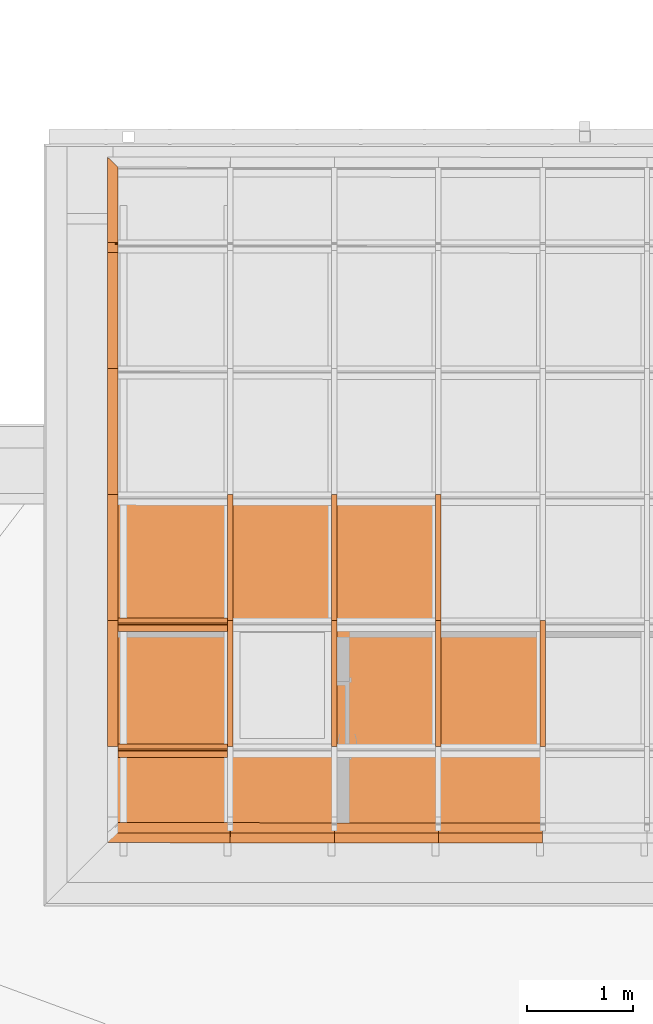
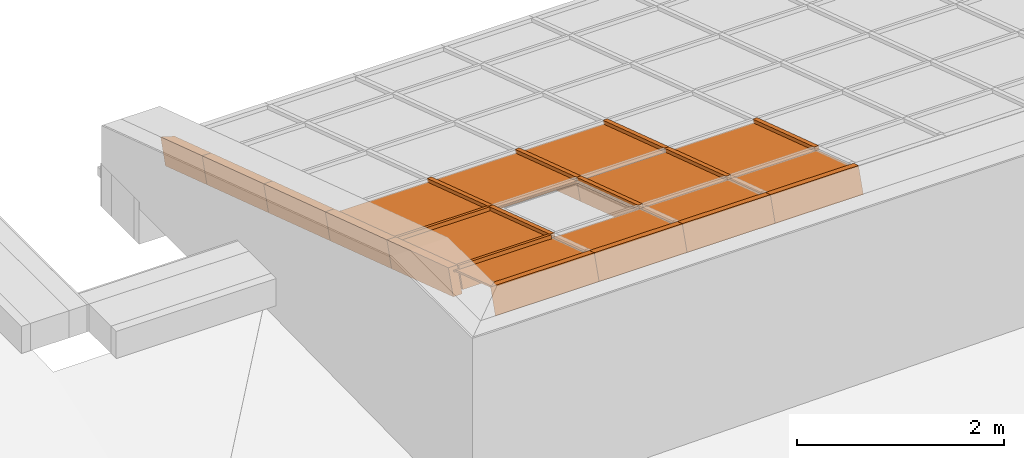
# One storey, part 30 of 47: 28 proxies, 1 element without a shape of its own.
"""IFC2X3 building model written with IfcOpenShell, lengths in millimetres."""

import ifcopenshell
import ifcopenshell.guid

model = None  # the IFC model being written
_history = None  # IfcOwnerHistory: only IFC2X3 demands one
_inside = {}  # id of a spatial element -> (the spatial element, [elements in it])
_under = {}  # id of a project, library or spatial element -> (it, [spatial elements below it])
_declared = {}  # id of a project -> (the project, [libraries it declares])
_typed = {}  # id of a type object -> (the type object, [elements of that type])
_made_of = {}  # id of a material, layer set ... -> (it, [elements and type objects made of it])


def new_model(schema):
    """Start an empty IFC model of exactly this schema.

    Asked for "IFC4X3", IfcOpenShell would pick the latest addendum, in which some entities
    have other attributes; the version numbers below select the first issue.
    IFC2X3 requires an IfcOwnerHistory on every rooted entity: one is made here for all.
    """
    global model, _history
    if schema == "IFC4X3":
        model = ifcopenshell.file(schema_version=(4, 3, 0, 0))
    else:
        model = ifcopenshell.file(schema=schema)
    _inside.clear()
    _under.clear()
    _declared.clear()
    _typed.clear()
    _made_of.clear()
    _history = None
    if model.schema == "IFC2X3":
        org = make("IfcOrganization", Name="unknown")
        user = make(
            "IfcPersonAndOrganization",
            ThePerson=make("IfcPerson", FamilyName="unknown"),
            TheOrganization=org,
        )
        app = make(
            "IfcApplication",
            ApplicationDeveloper=org,
            Version="unknown",
            ApplicationFullName="unknown",
            ApplicationIdentifier="unknown",
        )
        _history = make(
            "IfcOwnerHistory",
            OwningUser=user,
            OwningApplication=app,
            ChangeAction="ADDED",
            CreationDate=0,
        )
    return model


def make(cls, **values):
    """One entity of the class cls with the attributes given. An attribute that is None is left unset."""
    return model.create_entity(
        cls, **{name: value for name, value in values.items() if value is not None}
    )


def entity(cls, *values):
    """Any entity or typed value of the class cls, its attributes in the order of the schema. None: left unset."""
    e = model.create_entity(cls)
    for i, value in enumerate(values):
        if value is not None:
            e[i] = value
    return e


def rooted(cls, **values):
    """An entity with a GlobalId (a new one), such as an element, a storey or a relation."""
    return make(cls, GlobalId=ifcopenshell.guid.new(), OwnerHistory=_history, **values)


def si_unit(unit_type, name, prefix=None):
    """IfcSIUnit, for example si_unit("LENGTHUNIT", "METRE", prefix="MILLI")."""
    return make("IfcSIUnit", UnitType=unit_type, Prefix=prefix, Name=name)


def converted_unit(unit_type, name, factor, base, dimensions=None, offset=None):
    """IfcConversionBasedUnit, such as the inch: factor (a typed value) times the base unit."""
    return make(
        "IfcConversionBasedUnit"
        if offset is None
        else "IfcConversionBasedUnitWithOffset",
        ConversionOffset=offset,
        Dimensions=None
        if dimensions is None
        else entity("IfcDimensionalExponents", *dimensions),
        UnitType=unit_type,
        Name=name,
        ConversionFactor=make(
            "IfcMeasureWithUnit", ValueComponent=factor, UnitComponent=base
        ),
    )


def derived_unit(unit_type, elements):
    """IfcDerivedUnit: a product of units, each with its exponent."""
    return make(
        "IfcDerivedUnit",
        Elements=[
            make("IfcDerivedUnitElement", Unit=unit, Exponent=power)
            for unit, power in elements
        ],
        UnitType=unit_type,
    )


def money_unit(currency):
    """IfcMonetaryUnit."""
    return make("IfcMonetaryUnit", Currency=currency)


def assignment(units):
    """IfcUnitAssignment: the units of a project."""
    return None if units is None else make("IfcUnitAssignment", Units=units)


def point(xyz):
    """IfcCartesianPoint."""
    return None if xyz is None else make("IfcCartesianPoint", Coordinates=xyz)


def direction(xyz):
    """IfcDirection."""
    return None if xyz is None else make("IfcDirection", DirectionRatios=xyz)


def frame(location, z_axis=None, x_axis=None):
    """IfcAxis2Placement3D, a coordinate frame: its origin and axes. An axis left out is left unset."""
    return make(
        "IfcAxis2Placement3D",
        Location=point(location),
        Axis=direction(z_axis),
        RefDirection=direction(x_axis),
    )


def origin_with_axes():
    """The frame at (0, 0, 0) with the z axis (0, 0, 1) and the x axis (1, 0, 0) written out."""
    return frame((0.0, 0.0, 0.0), z_axis=(0.0, 0.0, 1.0), x_axis=(1.0, 0.0, 0.0))


def place(relative_to, where):
    """IfcLocalPlacement: puts the frame where relative to a parent placement (None: the world)."""
    return make(
        "IfcLocalPlacement", PlacementRelTo=relative_to, RelativePlacement=where
    )


def context(
    kind, dimensions, precision=None, world=None, true_north=None, identifier=None
):
    """IfcGeometricRepresentationContext, for example the 3D "Model" context."""
    return make(
        "IfcGeometricRepresentationContext",
        ContextIdentifier=identifier,
        ContextType=kind,
        CoordinateSpaceDimension=dimensions,
        Precision=precision,
        WorldCoordinateSystem=world,
        TrueNorth=true_north,
    )


def subcontext(parent, identifier, kind, view, scale=None):
    """IfcGeometricRepresentationSubContext, for example "Body" below "Model"."""
    return make(
        "IfcGeometricRepresentationSubContext",
        ContextIdentifier=identifier,
        ContextType=kind,
        ParentContext=parent,
        TargetScale=scale,
        TargetView=view,
    )


def project(units=None, contexts=None):
    """IfcProject with its units and contexts."""
    return rooted(
        "IfcProject",
        Name="project",
        RepresentationContexts=contexts,
        UnitsInContext=assignment(units),
    )


def spatial(cls, under=None, at=None, **own):
    """A site, building, storey or space (cls), placed at a placement, below another one or the project."""
    s = rooted(cls, ObjectPlacement=at, **own)
    if under is not None:
        _under.setdefault(under.id(), (under, []))[1].append(s)
    return s


def polyline(points):
    """IfcPolyline through the points."""
    return make("IfcPolyline", Points=[point(p) for p in points])


def outline(outer, holes=None, kind="AREA"):
    """IfcArbitraryClosedProfileDef: a profile drawn as a closed curve; with holes, ...WithVoids."""
    if holes is None:
        return make("IfcArbitraryClosedProfileDef", ProfileType=kind, OuterCurve=outer)
    return make(
        "IfcArbitraryProfileDefWithVoids",
        ProfileType=kind,
        OuterCurve=outer,
        InnerCurves=holes,
    )


def extrude(swept, where, along, depth):
    """IfcExtrudedAreaSolid: the profile swept, set in the frame where, extruded along a direction by depth."""
    return make(
        "IfcExtrudedAreaSolid",
        SweptArea=swept,
        Position=where,
        ExtrudedDirection=direction(along),
        Depth=depth,
    )


def clip(a, b, op="DIFFERENCE"):
    """IfcBooleanClippingResult: the solid a cut by the half space b."""
    return make(
        "IfcBooleanClippingResult", Operator=op, FirstOperand=a, SecondOperand=b
    )


def halfspace(plane, agree):
    """IfcHalfSpaceSolid: all space on one side of the plane z = 0 of the frame plane."""
    return make(
        "IfcHalfSpaceSolid",
        BaseSurface=make("IfcPlane", Position=plane),
        AgreementFlag=agree,
    )


def shape(context_of_items, identifier, shape_type, items):
    """IfcShapeRepresentation: the items that make up one representation, for example the "Body"."""
    return make(
        "IfcShapeRepresentation",
        ContextOfItems=context_of_items,
        RepresentationIdentifier=identifier,
        RepresentationType=shape_type,
        Items=items,
    )


def material(Name=None, Category=None):
    """IfcMaterial."""
    return make("IfcMaterial", Name=Name, Category=Category)


def material_list(materials):
    """IfcMaterialList."""
    return make("IfcMaterialList", Materials=materials)


def made_of(thing, what):
    """Note that an element or type object is made of a material, layer set ...; save() writes the relation."""
    if what is not None:
        _made_of.setdefault(what.id(), (what, []))[1].append(thing)
    return thing


def type_object(cls, material=None, **own):
    """A type object (cls), such as IfcWallType, which elements share."""
    return made_of(rooted(cls, **own), material)


def element(
    cls,
    number,
    at=None,
    inside=None,
    cuts=None,
    type_object=None,
    material=None,
    context=None,
    identifier="Body",
    shape_type=None,
    held_by="IfcProductDefinitionShape",
    body=None,
    shapes=None,
    **own,
):
    """One element of the class cls, such as IfcWall. Its Tag is "e" and its number.

    at: its placement. inside: the storey or other place that contains it. cuts: it is an
    opening in that element (IfcRelVoidsElement). A single representation is given by context,
    identifier, shape_type and body (its items); several are given by shapes. held_by: the class
    of the entity that holds the representations. save() writes the other relations.
    """
    e = rooted(cls, Tag="e%d" % number, ObjectPlacement=at, **own)
    if body is not None:
        shapes = [shape(context, identifier, shape_type, body)]
    if shapes is not None:
        e.Representation = make(held_by, Representations=shapes)
    if inside is not None:
        _inside.setdefault(inside.id(), (inside, []))[1].append(e)
    if cuts is not None:
        rooted(
            "IfcRelVoidsElement", RelatingBuildingElement=cuts, RelatedOpeningElement=e
        )
    if type_object is not None:
        _typed.setdefault(type_object.id(), (type_object, []))[1].append(e)
    return made_of(e, material)


def aggregate(whole, parts):
    """IfcRelAggregates: a whole, such as a stair, and the parts it consists of."""
    return rooted("IfcRelAggregates", RelatingObject=whole, RelatedObjects=parts)


def save(model, path):
    """Write the relations noted so far, then the file.

    IfcRelAggregates (storeys below a building ...), IfcRelContainedInSpatialStructure (elements
    in a storey), IfcRelDefinesByType, IfcRelAssociatesMaterial and IfcRelDeclares: one each for
    every whole, place, type object, material and project.
    """
    for whole, parts in _under.values():
        aggregate(whole, parts)
    for where, things in _inside.values():
        rooted(
            "IfcRelContainedInSpatialStructure",
            RelatedElements=things,
            RelatingStructure=where,
        )
    for kind, things in _typed.values():
        rooted("IfcRelDefinesByType", RelatedObjects=things, RelatingType=kind)
    for what, things in _made_of.values():
        rooted("IfcRelAssociatesMaterial", RelatedObjects=things, RelatingMaterial=what)
    for by, libraries in _declared.values():
        rooted("IfcRelDeclares", RelatingContext=by, RelatedDefinitions=libraries)
    model.write(path)


model = new_model("IFC2X3")

# Units and contexts
model_context = context("Model", 3, precision=1e-05, world=origin_with_axes(), true_north=direction((0.0, 1.0)))
body_context = subcontext(model_context, "Body", "Model", "MODEL_VIEW")
ifc_project = project(units=[si_unit("LENGTHUNIT", "METRE", prefix="MILLI"), si_unit("AREAUNIT", "SQUARE_METRE"), si_unit("VOLUMEUNIT", "CUBIC_METRE"), converted_unit("PLANEANGLEUNIT", "DEGREE", entity("IfcPlaneAngleMeasure", 0.0174532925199), si_unit("PLANEANGLEUNIT", "RADIAN"), dimensions=[0, 0, 0, 0, 0, 0, 0]), si_unit("SOLIDANGLEUNIT", "STERADIAN"), money_unit("EUR"), converted_unit("TIMEUNIT", "Year", entity("IfcTimeMeasure", 31556926.0), si_unit("TIMEUNIT", "SECOND"), dimensions=[0, 0, 1, 0, 0, 0, 0]), si_unit("MASSUNIT", "GRAM", prefix="KILO"), si_unit("THERMODYNAMICTEMPERATUREUNIT", "DEGREE_CELSIUS"), si_unit("LUMINOUSINTENSITYUNIT", "LUMEN"), si_unit("ENERGYUNIT", "JOULE", prefix="MEGA"), derived_unit("THERMALCONDUCTANCEUNIT", [(si_unit("POWERUNIT", "WATT"), 1), (si_unit("LENGTHUNIT", "METRE"), -1), (si_unit("THERMODYNAMICTEMPERATUREUNIT", "KELVIN"), -1)]), derived_unit("SPECIFICHEATCAPACITYUNIT", [(si_unit("ENERGYUNIT", "JOULE"), 1), (si_unit("MASSUNIT", "GRAM", prefix="KILO"), -1), (si_unit("THERMODYNAMICTEMPERATUREUNIT", "KELVIN"), -1)]), derived_unit("MASSDENSITYUNIT", [(si_unit("MASSUNIT", "GRAM", prefix="KILO"), 1), (si_unit("VOLUMEUNIT", "CUBIC_METRE"), -1)])], contexts=[model_context])

# Site, building, storey
site_placement = place(None, origin_with_axes())
site = spatial("IfcSite", under=ifc_project, at=site_placement, Name="Site", CompositionType="ELEMENT")
building_placement = place(site_placement, origin_with_axes())
building = spatial("IfcBuilding", under=site, at=building_placement, Name="Building", CompositionType="ELEMENT")
storey_placement = place(building_placement, frame((0.0, 0.0, 6000.0), z_axis=(0.0, 0.0, 1.0), x_axis=(1.0, 0.0, 0.0)))
storey = spatial("IfcBuildingStorey", under=building, at=storey_placement, Name="KATUSEPLAAN", CompositionType="ELEMENT", Elevation=6000.0)

# Curtain wall, proxies
curtain_wall_type = type_object("IfcCurtainWallType", Name="KK-2", PredefinedType="NOTDEFINED")
curtain_wall_placement = place(storey_placement, frame((71638.1505463, 41358.6055567, 722.550081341), z_axis=(0.0, 0.0, 1.0), x_axis=(1.0, 0.0, 0.0)))
curtain_wall = element("IfcCurtainWall", 1, at=curtain_wall_placement, inside=storey, type_object=curtain_wall_type, Name="Talveaja klaaskatus")
ifc_material_1 = material(Name="Klaas")
building_element_proxy_type_1 = type_object("IfcBuildingElementProxyType", Name="Panel-Main-179", PredefinedType="NOTDEFINED")
proxy_1_placement = place(curtain_wall_placement, frame((-5888.99750429, 2259.65533337, 1243.01523236), z_axis=(0.0, 0.0, 1.0), x_axis=(-0.999995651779, 0.00294896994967, 0.0)))
proxy_1 = element("IfcBuildingElementProxy", 2, at=proxy_1_placement, type_object=building_element_proxy_type_1, material=ifc_material_1, Name="Klaas;  Objekti nimi: Built-in CW Panel", context=body_context, shape_type="SweptSolid", body=[
    extrude(outline(polyline([(488.233079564, -631.370301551), (488.247097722, -626.37031631), (493.247064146, -626.384334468), (496.749044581, 623.610771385), (491.74905934, 623.624770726), (491.763077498, 628.624755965), (-488.233069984, 631.370301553), (-488.247088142, 626.370316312), (-493.247073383, 626.384315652), (-496.749035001, -623.610752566), (-491.749049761, -623.624770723), (-491.763067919, -628.624755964), (488.233079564, -631.370301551)])), frame((1.13686837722e-10, -3.12191252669, 9.50019274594), z_axis=(0.0, 0.312191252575, -0.950019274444), x_axis=(1.0, 0.0, 0.0)), (0.0, 0.0, 1.0), 20.0000000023),
])
building_element_proxy_type_2 = type_object("IfcBuildingElementProxyType", Name="Panel-Main-230", PredefinedType="NOTDEFINED")
proxy_2_placement = place(curtain_wall_placement, frame((-6931.87656995, 1.99232923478, 1985.92615463), z_axis=(0.0, 0.0, 1.0), x_axis=(-0.999995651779, 0.00294896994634, 0.0)))
proxy_2 = element("IfcBuildingElementProxy", 3, at=proxy_2_placement, type_object=building_element_proxy_type_2, material=ifc_material_1, Name="Klaas;  Objekti nimi: Built-in CW Panel", context=body_context, shape_type="SweptSolid", body=[
    extrude(outline(polyline([(-553.727641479, -301.957195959), (-553.671616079, -281.957256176), (532.083160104, -284.999113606), (534.283127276, 500.25878893), (554.283050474, 500.202746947), (554.297048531, 505.202740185), (-551.45761768, 508.300606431), (-551.471632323, 503.300629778), (-556.471625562, 503.314644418), (-558.727618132, -301.943181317), (-553.727641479, -301.957195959)])), frame((0.0, -3.12191252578, 9.50019274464), z_axis=(0.0, 0.312191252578, -0.950019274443), x_axis=(1.0, 0.0, 0.0)), (0.0, 0.0, 1.0), 20.0000000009),
])
building_element_proxy_type_3 = type_object("IfcBuildingElementProxyType", Name="Panel-Main-229", PredefinedType="NOTDEFINED")
proxy_3_placement = place(curtain_wall_placement, frame((-5888.99750429, 1.6925895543, 1985.01402238), z_axis=(0.0, 0.0, 1.0), x_axis=(-0.999995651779, 0.00294896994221, 0.0)))
proxy_3 = element("IfcBuildingElementProxy", 4, at=proxy_3_placement, type_object=building_element_proxy_type_3, material=ifc_material_1, Name="Klaas;  Objekti nimi: Built-in CW Panel", context=body_context, shape_type="SweptSolid", body=[
    extrude(outline(polyline([(494.147754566, -304.89290794), (496.403760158, 500.364911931), (491.403790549, 500.378899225), (491.417792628, 505.378898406), (-488.578350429, 508.124444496), (-488.59238208, 503.124474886), (-493.592336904, 503.138462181), (-495.848357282, -302.119357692), (-490.848372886, -302.133359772), (-490.792349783, -282.133422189), (489.20380806, -284.878968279), (489.147770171, -304.878905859), (494.147754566, -304.89290794)])), frame((1.13686837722e-10, -3.12191252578, 9.50019274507), z_axis=(0.0, 0.312191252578, -0.950019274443), x_axis=(1.0, 0.0, 0.0)), (0.0, 0.0, 1.0), 20.0000000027),
])
building_element_proxy_type_4 = type_object("IfcBuildingElementProxyType", Name="Panel-Main-175", PredefinedType="NOTDEFINED")
proxy_4_placement = place(curtain_wall_placement, frame((-6931.87656995, 1072.43047673, 1634.16489887), z_axis=(0.0, 0.0, 1.0), x_axis=(-0.999995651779, 0.00294896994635, 0.0)))
proxy_4 = element("IfcBuildingElementProxy", 5, at=proxy_4_placement, type_object=building_element_proxy_type_4, material=ifc_material_1, Name="Klaas;  Objekti nimi: Built-in CW Panel", context=body_context, shape_type="SweptSolid", body=[
    extrude(outline(polyline([(551.112347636, -631.546463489), (551.126350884, -626.546475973), (531.12641964, -626.49044416), (534.628417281, 623.504646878), (554.628329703, 623.448615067), (554.642332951, 628.448583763), (-551.112344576, 631.546463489), (-551.126347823, 626.546494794), (-556.126316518, 626.560498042), (-559.628314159, -623.434611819), (-554.628326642, -623.448615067), (-554.64232989, -628.44858376), (551.112347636, -631.546463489)])), frame((0.0, -3.12191252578, 9.50019274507), z_axis=(0.0, 0.312191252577, -0.950019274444), x_axis=(1.0, 0.0, 0.0)), (0.0, 0.0, 1.0), 20.0000000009),
])
building_element_proxy_type_5 = type_object("IfcBuildingElementProxyType", Name="Panel-Main-148", PredefinedType="NOTDEFINED")
proxy_5_placement = place(curtain_wall_placement, frame((-6931.87656995, 2259.95507305, 1243.92736461), z_axis=(0.0, 0.0, 1.0), x_axis=(-0.999995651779, 0.00294896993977, 0.0)))
proxy_5 = element("IfcBuildingElementProxy", 6, at=proxy_5_placement, type_object=building_element_proxy_type_5, material=ifc_material_1, Name="Klaas;  Objekti nimi: Built-in CW Panel", context=body_context, shape_type="SweptSolid", body=[
    extrude(outline(polyline([(551.112347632, -631.546463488), (551.12635088, -626.546494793), (531.126438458, -626.49046298), (534.628417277, 623.50464688), (554.628329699, 623.448615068), (554.642332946, 628.448583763), (-551.112344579, 631.546463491), (-551.126347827, 626.546475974), (-556.126354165, 626.560498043), (-559.628295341, -623.434592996), (-554.628326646, -623.448615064), (-554.642329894, -628.44858376), (551.112347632, -631.546463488)])), frame((0.0, -3.1219125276, 9.50019274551), z_axis=(0.0, 0.312191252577, -0.950019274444), x_axis=(1.0, 0.0, 0.0)), (0.0, 0.0, 1.0), 20.0000000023),
])
building_element_proxy_type_6 = type_object("IfcBuildingElementProxyType", Name="Panel-Dist-146", PredefinedType="NOTDEFINED")
proxy_6_placement = place(curtain_wall_placement, frame((-4908.99791961, 2259.37366624, 1242.15809633), z_axis=(0.0, 0.0, 1.0), x_axis=(-0.999995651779, 0.00294896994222, 0.0)))
proxy_6 = element("IfcBuildingElementProxy", 7, at=proxy_6_placement, type_object=building_element_proxy_type_6, material=ifc_material_1, Name="Klaas;  Objekti nimi: Built-in CW Panel", context=body_context, shape_type="SweptSolid", body=[
    extrude(outline(polyline([(488.23307956, -631.370301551), (488.247097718, -626.37031631), (493.247064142, -626.384334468), (496.749044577, 623.610771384), (491.749059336, 623.624770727), (491.763077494, 628.624755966), (-488.233069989, 631.370301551), (-488.247088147, 626.370316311), (-493.247073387, 626.384315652), (-496.749035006, -623.610752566), (-491.749049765, -623.624770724), (-491.763067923, -628.624755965), (488.23307956, -631.370301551)])), frame((0.0, -3.12191252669, 9.50019274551), z_axis=(0.0, 0.312191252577, -0.950019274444), x_axis=(1.0, 0.0, 0.0)), (0.0, 0.0, 1.0), 20.0000000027),
])
building_element_proxy_type_7 = type_object("IfcBuildingElementProxyType", Name="Panel-Main-227", PredefinedType="NOTDEFINED")
proxy_7_placement = place(curtain_wall_placement, frame((-3927.49833556, 1.12882415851, 1983.29843837), z_axis=(0.0, 0.0, 1.0), x_axis=(-0.999995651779, 0.00294896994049, 0.0)))
proxy_7 = element("IfcBuildingElementProxy", 8, at=proxy_7_placement, type_object=building_element_proxy_type_7, material=ifc_material_1, Name="Klaas;  Objekti nimi: Built-in CW Panel", context=body_context, shape_type="SweptSolid", body=[
    extrude(outline(polyline([(495.647749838, -304.897118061), (497.903754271, 500.36070691), (492.903779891, 500.374706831), (492.917779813, 505.374696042), (-490.07835783, 508.128646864), (-490.092372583, 503.128657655), (-495.092346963, 503.142672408), (-497.348351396, -302.115137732), (-492.348377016, -302.129152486), (-492.292332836, -282.129240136), (490.703789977, -284.88319096), (490.647775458, -304.883103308), (495.647749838, -304.897118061)])), frame((0.0, -3.12191252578, 9.50019274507), z_axis=(0.0, 0.312191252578, -0.950019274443), x_axis=(1.0, 0.0, 0.0)), (0.0, 0.0, 1.0), 20.0000000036),
])
building_element_proxy_type_8 = type_object("IfcBuildingElementProxyType", Name="Panel-Main-172", PredefinedType="NOTDEFINED")
proxy_8_placement = place(curtain_wall_placement, frame((-3927.49833556, 1071.56697166, 1631.53718261), z_axis=(0.0, 0.0, 1.0), x_axis=(-0.999995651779, 0.0029489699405, 0.0)))
proxy_8 = element("IfcBuildingElementProxy", 9, at=proxy_8_placement, type_object=building_element_proxy_type_8, material=ifc_material_1, Name="Klaas;  Objekti nimi: Built-in CW Panel", context=body_context, shape_type="SweptSolid", body=[
    extrude(outline(polyline([(489.73307344, -631.374503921), (489.74709169, -626.374523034), (494.747072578, -626.388522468), (498.249038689, 623.606567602), (493.249057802, 623.620567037), (493.263057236, 628.620547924), (-489.733083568, 631.37450392), (-489.747101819, 626.374523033), (-494.747082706, 626.388522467), (-498.249048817, -623.606567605), (-493.24906793, -623.620567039), (-493.263067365, -628.620547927), (489.73307344, -631.374503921)])), frame((0.0, -3.12191252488, 9.50019274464), z_axis=(0.0, 0.312191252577, -0.950019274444), x_axis=(1.0, 0.0, 0.0)), (0.0, 0.0, 1.0), 20.0000000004),
])
building_element_proxy_type_9 = type_object("IfcBuildingElementProxyType", Name="Panel-Main-173", PredefinedType="NOTDEFINED")
proxy_9_placement = place(curtain_wall_placement, frame((-4908.99791961, 1071.84906992, 1632.39563058), z_axis=(0.0, 0.0, 1.0), x_axis=(-0.999995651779, 0.00294896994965, 0.0)))
proxy_9 = element("IfcBuildingElementProxy", 10, at=proxy_9_placement, type_object=building_element_proxy_type_9, material=ifc_material_1, Name="Klaas;  Objekti nimi: Built-in CW Panel", context=body_context, shape_type="SweptSolid", body=[
    extrude(outline(polyline([(488.233079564, -631.370301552), (488.247097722, -626.370316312), (493.247064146, -626.38433447), (496.749044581, 623.610771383), (491.74905934, 623.624770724), (491.763077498, 628.624755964), (-488.233069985, 631.37030155), (-488.247088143, 626.37031631), (-493.247073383, 626.384315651), (-496.749035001, -623.610752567), (-491.749049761, -623.624770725), (-491.763067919, -628.624755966), (488.233079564, -631.370301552)])), frame((0.0, -3.12191252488, 9.50019274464), z_axis=(0.0, 0.312191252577, -0.950019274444), x_axis=(1.0, 0.0, 0.0)), (0.0, 0.0, 1.0), 20.0000000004),
])
building_element_proxy_type_10 = type_object("IfcBuildingElementProxyType", Name="Panel-Main-228", PredefinedType="NOTDEFINED")
proxy_10_placement = place(curtain_wall_placement, frame((-4908.99791961, 1.41092241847, 1984.15688635), z_axis=(0.0, 0.0, 1.0), x_axis=(-0.999995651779, 0.00294896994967, 0.0)))
proxy_10 = element("IfcBuildingElementProxy", 11, at=proxy_10_placement, type_object=building_element_proxy_type_10, material=ifc_material_1, Name="Klaas;  Objekti nimi: Built-in CW Panel", context=body_context, shape_type="SweptSolid", body=[
    extrude(outline(polyline([(494.14775457, -304.892907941), (496.403760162, 500.364911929), (491.403790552, 500.378899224), (491.417792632, 505.378898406), (-488.578350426, 508.124444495), (-488.592382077, 503.124474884), (-493.592336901, 503.138462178), (-495.848357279, -302.119357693), (-490.848372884, -302.133359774), (-490.79234978, -282.133422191), (489.203808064, -284.878968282), (489.147770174, -304.878905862), (494.14775457, -304.892907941)])), frame((0.0, -3.12191252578, 9.50019274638), z_axis=(0.0, 0.312191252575, -0.950019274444), x_axis=(1.0, 0.0, 0.0)), (0.0, 0.0, 1.0), 20.0000000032),
])
ifc_material_2 = material(Name="Alumiinium (1)")
building_element_proxy_type_11 = type_object("IfcBuildingElementProxyType", Name="Frame-Bnd-608", PredefinedType="NOTDEFINED")
proxy_11_placement = place(curtain_wall_placement, frame((-7484.75584326, 5983.94317915, 20.7074960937), z_axis=(0.0, -0.950019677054, 0.312190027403), x_axis=(-0.999999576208, 0.000287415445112, 0.000874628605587)))
proxy_11 = element("IfcBuildingElementProxy", 12, at=proxy_11_placement, type_object=building_element_proxy_type_11, material=ifc_material_2, Name="Alumiinium (1);  Objekti nimi: Built-in Frame", context=body_context, shape_type="Clipping", body=[
    clip(extrude(outline(polyline([(-19.9907850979, 10.0184086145), (-20.0091979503, -9.9815829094), (-50.0091852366, -9.95396363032), (-50.0460109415, -49.9539466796), (49.9539466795, -50.0460109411), (50.2301394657, 249.953861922), (-49.7698181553, 250.045926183), (-49.9907723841, 10.0460278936), (-19.9907850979, 10.0184086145)])), frame((1.13686837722e-10, -4.54747350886e-10, -50.0000000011), z_axis=(0.0, 0.0, 1.0), x_axis=(0.999999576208, 0.000920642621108, 0.0)), (0.0, 0.0, 1.0), 844.739022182), halfspace(frame((-1.99820024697e-10, 0.0, -1.99820024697e-10), z_axis=(0.707106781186, 0.0, 0.707106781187), x_axis=(0.0, -1.0, 0.0)), True)),
])
ifc_material_list = material_list([ifc_material_2, ifc_material_2])
building_element_proxy_type_12 = type_object("IfcBuildingElementProxyType", Name="Frame-Trs-747", PredefinedType="NOTDEFINED")
proxy_12_placement = place(curtain_wall_placement, frame((-7484.75584326, 1666.351681, 1439.52969597), z_axis=(0.999999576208, -0.000287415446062, -0.000874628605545), x_axis=(0.0, -0.950019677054, 0.312190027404)))
proxy_12 = element("IfcBuildingElementProxy", 13, at=proxy_12_placement, type_object=building_element_proxy_type_12, material=ifc_material_list, Name="Alumiinium (1);  Objekti nimi: Frame 22", context=body_context, shape_type="SweptSolid", body=[
    extrude(outline(polyline([(26.8723924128, 1.69544270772), (86.1885203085, 182.199173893), (38.6875384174, 197.808681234), (-20.6285894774, 17.3049500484), (26.8723924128, 1.69544270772)])), frame((0.0, 0.0, 50.0), z_axis=(0.0, 0.0, 1.0), x_axis=(0.950019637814, 0.312190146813, 0.0)), (0.0, 0.0, 1.0), 1030.75901524),
    extrude(outline(polyline([(-26.8723924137, -1.69544270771), (-39.3599982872, -39.6962282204), (8.14098360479, -55.3057355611), (20.6285894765, -17.3049500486), (-26.8723924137, -1.69544270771)])), frame((0.0, 0.0, 50.0), z_axis=(0.0, 0.0, 1.0), x_axis=(0.950019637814, 0.312190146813, 0.0)), (0.0, 0.0, 1.0), 1030.75901524),
])
building_element_proxy_type_13 = type_object("IfcBuildingElementProxyType", Name="Frame-Mll-054", PredefinedType="NOTDEFINED")
proxy_13_placement = place(curtain_wall_placement, frame((-4418.99812727, 1665.47053451, 1436.84829544), z_axis=(0.0, -0.950019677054, 0.312190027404), x_axis=(-0.999999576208, 0.000287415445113, 0.000874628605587)))
proxy_13 = element("IfcBuildingElementProxy", 14, at=proxy_13_placement, type_object=building_element_proxy_type_13, material=ifc_material_list, Name="Alumiinium (1);  Objekti nimi: Frame 22", context=body_context, shape_type="SweptSolid", body=[
    extrude(outline(polyline([(25.0091958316, 9.97697969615), (25.1841179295, 199.976899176), (-24.8158608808, 200.022931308), (-24.9907829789, 10.0230118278), (25.0091958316, 9.97697969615)])), frame((0.0, 0.0, 0.0), z_axis=(0.0, 0.0, 1.0), x_axis=(0.999999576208, 0.000920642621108, 0.0)), (0.0, 0.0, 1.0), 1250.0),
    extrude(outline(polyline([(-25.0091958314, -9.97697969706), (-25.0460215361, -49.9769627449), (24.9539572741, -50.0229948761), (24.990782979, -10.0230118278), (-25.0091958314, -9.97697969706)])), frame((0.0, 0.0, 0.0), z_axis=(0.0, 0.0, 1.0), x_axis=(0.999999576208, 0.000920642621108, 0.0)), (0.0, 0.0, 1.0), 1250.0),
])
building_element_proxy_type_14 = type_object("IfcBuildingElementProxyType", Name="Frame-Mll-585", PredefinedType="NOTDEFINED")
proxy_14_placement = place(curtain_wall_placement, frame((-6378.99729663, 2853.5584651, 1048.32503325), z_axis=(0.0, -0.950019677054, 0.312190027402), x_axis=(-0.999999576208, 0.000287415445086, 0.00087462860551)))
proxy_14 = element("IfcBuildingElementProxy", 15, at=proxy_14_placement, type_object=building_element_proxy_type_14, material=ifc_material_list, Name="Alumiinium (1);  Objekti nimi: Frame 22", context=body_context, shape_type="SweptSolid", body=[
    extrude(outline(polyline([(25.0091958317, 9.97697969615), (25.1841179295, 199.976899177), (-24.8158608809, 200.022931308), (-24.9907829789, 10.0230118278), (25.0091958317, 9.97697969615)])), frame((0.0, 0.0, -9.09494701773e-10), z_axis=(0.0, 0.0, 1.0), x_axis=(0.999999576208, 0.000920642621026, 0.0)), (0.0, 0.0, 1.0), 1250.00000001),
    extrude(outline(polyline([(-25.0091958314, -9.97697969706), (-25.0460215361, -49.9769627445), (24.9539572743, -50.0229948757), (24.9907829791, -10.0230118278), (-25.0091958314, -9.97697969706)])), frame((0.0, 0.0, -9.09494701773e-10), z_axis=(0.0, 0.0, 1.0), x_axis=(0.999999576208, 0.000920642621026, 0.0)), (0.0, 0.0, 1.0), 1250.00000001),
])
building_element_proxy_type_15 = type_object("IfcBuildingElementProxyType", Name="Frame-Mll-586", PredefinedType="NOTDEFINED")
proxy_15_placement = place(curtain_wall_placement, frame((-5398.99771195, 2853.27679796, 1047.46789722), z_axis=(0.0, -0.950019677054, 0.312190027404), x_axis=(-0.999999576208, 0.000287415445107, 0.00087462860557)))
proxy_15 = element("IfcBuildingElementProxy", 16, at=proxy_15_placement, type_object=building_element_proxy_type_15, material=ifc_material_list, Name="Alumiinium (1);  Objekti nimi: Frame 22", context=body_context, shape_type="SweptSolid", body=[
    extrude(outline(polyline([(25.0091958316, 9.97697969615), (25.1841179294, 199.976899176), (-24.8158608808, 200.022931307), (-24.9907829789, 10.0230118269), (25.0091958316, 9.97697969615)])), frame((0.0, 0.0, -9.09494701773e-10), z_axis=(0.0, 0.0, 1.0), x_axis=(0.999999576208, 0.00092064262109, 0.0)), (0.0, 0.0, 1.0), 1250.0),
    extrude(outline(polyline([(-25.0091958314, -9.97697969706), (-25.0460215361, -49.9769627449), (24.9539572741, -50.0229948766), (24.990782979, -10.0230118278), (-25.0091958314, -9.97697969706)])), frame((0.0, 0.0, -9.09494701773e-10), z_axis=(0.0, 0.0, 1.0), x_axis=(0.999999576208, 0.00092064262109, 0.0)), (0.0, 0.0, 1.0), 1250.0),
])
building_element_proxy_type_16 = type_object("IfcBuildingElementProxyType", Name="Frame-Bnd-669", PredefinedType="NOTDEFINED")
proxy_16_placement = place(curtain_wall_placement, frame((-7484.75584326, 5228.92546996, 268.817093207), z_axis=(0.0, -0.950019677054, 0.312190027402), x_axis=(-0.999999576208, 0.000287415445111, 0.000874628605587)))
proxy_16 = element("IfcBuildingElementProxy", 17, at=proxy_16_placement, type_object=building_element_proxy_type_16, material=ifc_material_2, Name="Alumiinium (1);  Objekti nimi: Built-in Frame", context=body_context, shape_type="SweptSolid", body=[
    extrude(outline(polyline([(-19.990785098, 10.0184086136), (-20.0091979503, -9.98158291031), (-50.0091852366, -9.95396363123), (-50.0460109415, -49.9539466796), (49.9539466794, -50.046010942), (50.2301394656, 249.953861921), (-49.7698181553, 250.045926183), (-49.9907723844, 10.0460278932), (-19.990785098, 10.0184086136)])), frame((0.0, 0.0, -9.09494701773e-10), z_axis=(0.0, 0.0, 1.0), x_axis=(0.999999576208, 0.000920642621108, 0.0)), (0.0, 0.0, 1.0), 1250.00000001),
])
building_element_proxy_type_17 = type_object("IfcBuildingElementProxyType", Name="Frame-Bnd-668", PredefinedType="NOTDEFINED")
proxy_17_placement = place(curtain_wall_placement, frame((-7484.75584326, 4041.40087363, 659.054627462), z_axis=(0.0, -0.950019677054, 0.312190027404), x_axis=(-0.999999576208, 0.000287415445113, 0.000874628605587)))
proxy_17 = element("IfcBuildingElementProxy", 18, at=proxy_17_placement, type_object=building_element_proxy_type_17, material=ifc_material_2, Name="Alumiinium (1);  Objekti nimi: Built-in Frame", context=body_context, shape_type="SweptSolid", body=[
    extrude(outline(polyline([(-19.9907850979, 10.0184086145), (-20.0091979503, -9.98158290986), (-50.0091852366, -9.95396363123), (-50.0460109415, -49.9539466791), (49.9539466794, -50.0460109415), (50.2301394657, 249.953861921), (-49.7698181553, 250.045926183), (-49.9907723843, 10.0460278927), (-19.9907850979, 10.0184086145)])), frame((0.0, -4.54747350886e-10, -9.09494701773e-10), z_axis=(0.0, 0.0, 1.0), x_axis=(0.999999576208, 0.000920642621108, 0.0)), (0.0, 0.0, 1.0), 1250.0),
])
building_element_proxy_type_18 = type_object("IfcBuildingElementProxyType", Name="Frame-Mll-053", PredefinedType="NOTDEFINED")
proxy_18_placement = place(curtain_wall_placement, frame((-5398.99771195, 1665.75220165, 1437.70543147), z_axis=(0.0, -0.950019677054, 0.312190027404), x_axis=(-0.999999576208, 0.000287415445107, 0.00087462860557)))
proxy_18 = element("IfcBuildingElementProxy", 19, at=proxy_18_placement, type_object=building_element_proxy_type_18, material=ifc_material_list, Name="Alumiinium (1);  Objekti nimi: Frame 22", context=body_context, shape_type="SweptSolid", body=[
    extrude(outline(polyline([(25.0091958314, 9.9769796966), (25.1841179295, 199.976899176), (-24.8158608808, 200.022931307), (-24.9907829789, 10.0230118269), (25.0091958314, 9.9769796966)])), frame((0.0, 0.0, 0.0), z_axis=(0.0, 0.0, 1.0), x_axis=(0.999999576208, 0.00092064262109, 0.0)), (0.0, 0.0, 1.0), 1250.0),
    extrude(outline(polyline([(-25.0091958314, -9.97697969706), (-25.0460215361, -49.9769627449), (24.9539572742, -50.0229948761), (24.9907829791, -10.0230118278), (-25.0091958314, -9.97697969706)])), frame((0.0, 0.0, 0.0), z_axis=(0.0, 0.0, 1.0), x_axis=(0.999999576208, 0.00092064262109, 0.0)), (0.0, 0.0, 1.0), 1250.0),
])
building_element_proxy_type_19 = type_object("IfcBuildingElementProxyType", Name="Frame-Trs-515", PredefinedType="NOTDEFINED")
proxy_19_placement = place(curtain_wall_placement, frame((-7484.75584326, 478.827084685, 1829.76723023), z_axis=(0.999999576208, -0.000287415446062, -0.000874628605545), x_axis=(0.0, -0.950019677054, 0.312190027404)))
proxy_19 = element("IfcBuildingElementProxy", 20, at=proxy_19_placement, type_object=building_element_proxy_type_19, material=ifc_material_list, Name="Alumiinium (1);  Objekti nimi: Frame 22", context=body_context, shape_type="SweptSolid", body=[
    extrude(outline(polyline([(26.8723924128, 1.69544270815), (86.1885203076, 182.199173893), (38.6875384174, 197.808681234), (-20.6285894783, 17.3049500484), (26.8723924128, 1.69544270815)])), frame((-9.09494701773e-10, 0.0, 50.0), z_axis=(0.0, 0.0, 1.0), x_axis=(0.950019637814, 0.312190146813, 0.0)), (0.0, 0.0, 1.0), 1030.75901524),
    extrude(outline(polyline([(-26.8723924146, -1.69544270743), (-39.3599982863, -39.69622822), (8.14098360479, -55.3057355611), (20.6285894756, -17.3049500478), (-26.8723924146, -1.69544270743)])), frame((-9.09494701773e-10, 0.0, 50.0), z_axis=(0.0, 0.0, 1.0), x_axis=(0.950019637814, 0.312190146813, 0.0)), (0.0, 0.0, 1.0), 1030.75901524),
])
building_element_proxy_type_20 = type_object("IfcBuildingElementProxyType", Name="Frame-Mll-055", PredefinedType="NOTDEFINED")
proxy_20_placement = place(curtain_wall_placement, frame((-3435.99854385, 1665.18800513, 1435.98853552), z_axis=(0.0, -0.950019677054, 0.312190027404), x_axis=(-0.999999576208, 0.000287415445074, 0.000874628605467)))
proxy_20 = element("IfcBuildingElementProxy", 21, at=proxy_20_placement, type_object=building_element_proxy_type_20, material=ifc_material_list, Name="Alumiinium (1);  Objekti nimi: Frame 22", context=body_context, shape_type="SweptSolid", body=[
    extrude(outline(polyline([(25.0091958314, 9.97697969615), (25.1841179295, 199.976899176), (-24.8158608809, 200.022931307), (-24.990782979, 10.0230118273), (25.0091958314, 9.97697969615)])), frame((0.0, 0.0, -2.72848410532e-09), z_axis=(0.0, 0.0, 1.0), x_axis=(0.999999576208, 0.000920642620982, 0.0)), (0.0, 0.0, 1.0), 1250.0),
    extrude(outline(polyline([(-25.0091958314, -9.97697969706), (-25.0460215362, -49.9769627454), (24.9539572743, -50.0229948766), (24.9907829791, -10.0230118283), (-25.0091958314, -9.97697969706)])), frame((0.0, 0.0, -2.72848410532e-09), z_axis=(0.0, 0.0, 1.0), x_axis=(0.999999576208, 0.000920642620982, 0.0)), (0.0, 0.0, 1.0), 1250.0),
])
building_element_proxy_type_21 = type_object("IfcBuildingElementProxyType", Name="Frame-Mll-587", PredefinedType="NOTDEFINED")
proxy_21_placement = place(curtain_wall_placement, frame((-4418.99812727, 2852.99513083, 1046.61076118), z_axis=(0.0, -0.950019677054, 0.312190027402), x_axis=(-0.999999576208, 0.000287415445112, 0.000874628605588)))
proxy_21 = element("IfcBuildingElementProxy", 22, at=proxy_21_placement, type_object=building_element_proxy_type_21, material=ifc_material_list, Name="Alumiinium (1);  Objekti nimi: Frame 22", context=body_context, shape_type="SweptSolid", body=[
    extrude(outline(polyline([(25.0091958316, 9.97697969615), (25.1841179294, 199.976899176), (-24.8158608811, 200.022931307), (-24.990782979, 10.0230118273), (25.0091958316, 9.97697969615)])), frame((0.0, 0.0, -3.63797880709e-09), z_axis=(0.0, 0.0, 1.0), x_axis=(0.999999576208, 0.000920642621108, 0.0)), (0.0, 0.0, 1.0), 1250.00000001),
    extrude(outline(polyline([(-25.0091958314, -9.97697969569), (-25.0460215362, -49.9769627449), (24.9539572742, -50.0229948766), (24.990782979, -10.0230118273), (-25.0091958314, -9.97697969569)])), frame((0.0, 0.0, -3.63797880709e-09), z_axis=(0.0, 0.0, 1.0), x_axis=(0.999999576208, 0.000920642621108, 0.0)), (0.0, 0.0, 1.0), 1250.00000001),
])
building_element_proxy_type_22 = type_object("IfcBuildingElementProxyType", Name="Frame-Bnd-667", PredefinedType="NOTDEFINED")
proxy_22_placement = place(curtain_wall_placement, frame((-7484.75584326, 2853.87627732, 1049.29216172), z_axis=(0.0, -0.950019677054, 0.312190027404), x_axis=(-0.999999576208, 0.000287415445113, 0.000874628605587)))
proxy_22 = element("IfcBuildingElementProxy", 23, at=proxy_22_placement, type_object=building_element_proxy_type_22, material=ifc_material_2, Name="Alumiinium (1);  Objekti nimi: Built-in Frame", context=body_context, shape_type="SweptSolid", body=[
    extrude(outline(polyline([(-19.990785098, 10.018408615), (-20.0091979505, -9.9815829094), (-50.0091852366, -9.95396363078), (-50.0460109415, -49.9539466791), (49.9539466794, -50.0460109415), (50.2301394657, 249.953861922), (-49.7698181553, 250.045926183), (-49.9907723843, 10.0460278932), (-19.990785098, 10.018408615)])), frame((0.0, -4.54747350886e-10, -1.81898940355e-09), z_axis=(0.0, 0.0, 1.0), x_axis=(0.999999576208, 0.000920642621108, 0.0)), (0.0, 0.0, 1.0), 1250.0),
])
building_element_proxy_type_23 = type_object("IfcBuildingElementProxyType", Name="Frame-Mll-052", PredefinedType="NOTDEFINED")
proxy_23_placement = place(curtain_wall_placement, frame((-6378.99729663, 1666.03386878, 1438.56256751), z_axis=(0.0, -0.950019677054, 0.312190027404), x_axis=(-0.999999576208, 0.000287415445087, 0.000874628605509)))
proxy_23 = element("IfcBuildingElementProxy", 24, at=proxy_23_placement, type_object=building_element_proxy_type_23, material=ifc_material_list, Name="Alumiinium (1);  Objekti nimi: Frame 22", context=body_context, shape_type="SweptSolid", body=[
    extrude(outline(polyline([(25.0091958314, 9.97697969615), (25.1841179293, 199.976899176), (-24.8158608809, 200.022931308), (-24.9907829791, 10.0230118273), (25.0091958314, 9.97697969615)])), frame((0.0, 0.0, 0.0), z_axis=(0.0, 0.0, 1.0), x_axis=(0.999999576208, 0.000920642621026, 0.0)), (0.0, 0.0, 1.0), 1250.0),
    extrude(outline(polyline([(-25.0091958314, -9.9769796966), (-25.0460215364, -49.9769627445), (24.9539572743, -50.0229948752), (24.9907829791, -10.0230118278), (-25.0091958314, -9.9769796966)])), frame((0.0, 0.0, -9.09494701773e-10), z_axis=(0.0, 0.0, 1.0), x_axis=(0.999999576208, 0.000920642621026, 0.0)), (0.0, 0.0, 1.0), 1250.0),
])
building_element_proxy_type_24 = type_object("IfcBuildingElementProxyType", Name="Frame-Bnd-661", PredefinedType="NOTDEFINED")
proxy_24_placement = place(curtain_wall_placement, frame((-4418.99812727, -287.067835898, 2078.48027643), z_axis=(-0.999999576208, 0.000287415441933, 0.000874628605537), x_axis=(0.0, 0.950019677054, -0.312190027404)))
proxy_24 = element("IfcBuildingElementProxy", 25, at=proxy_24_placement, type_object=building_element_proxy_type_24, material=ifc_material_2, Name="Alumiinium (1);  Objekti nimi: Built-in Frame", context=body_context, shape_type="SweptSolid", body=[
    extrude(outline(polyline([(15.8784912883, 15.743999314), (44.379080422, 25.1097037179), (-30.5465548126, 253.114416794), (-125.548518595, 221.895402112), (-31.8914745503, -63.1104892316), (63.1104892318, -31.8914745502), (50.6228833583, 6.10931096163), (22.1222942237, -3.25639344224), (15.8784912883, 15.743999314)])), frame((0.0, 0.0, -4.54747350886e-10), z_axis=(0.0, 0.0, 1.0), x_axis=(0.950019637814, -0.312190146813, 0.0)), (0.0, 0.0, 1.0), 980.000000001),
])
building_element_proxy_type_25 = type_object("IfcBuildingElementProxyType", Name="Frame-Bnd-666", PredefinedType="NOTDEFINED")
proxy_25_placement = place(curtain_wall_placement, frame((-7484.75584326, 1666.351681, 1439.52969597), z_axis=(0.0, -0.950019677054, 0.312190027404), x_axis=(-0.999999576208, 0.000287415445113, 0.000874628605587)))
proxy_25 = element("IfcBuildingElementProxy", 26, at=proxy_25_placement, type_object=building_element_proxy_type_25, material=ifc_material_2, Name="Alumiinium (1);  Objekti nimi: Built-in Frame", context=body_context, shape_type="SweptSolid", body=[
    extrude(outline(polyline([(-19.9907850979, 10.0184086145), (-20.0091979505, -9.98158290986), (-50.0091852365, -9.95396363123), (-50.0460109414, -49.9539466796), (49.9539466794, -50.0460109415), (50.2301394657, 249.95386192), (-49.7698181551, 250.045926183), (-49.9907723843, 10.0460278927), (-19.9907850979, 10.0184086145)])), frame((0.0, 4.54747350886e-10, -9.09494701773e-10), z_axis=(0.0, 0.0, 1.0), x_axis=(0.999999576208, 0.000920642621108, 0.0)), (0.0, 0.0, 1.0), 1250.0),
])
building_element_proxy_type_26 = type_object("IfcBuildingElementProxyType", Name="Frame-Bnd-660", PredefinedType="NOTDEFINED")
proxy_26_placement = place(curtain_wall_placement, frame((-3435.99854385, -287.350365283, 2077.62051651), z_axis=(-0.999999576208, 0.000287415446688, 0.000874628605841), x_axis=(0.0, 0.950019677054, -0.312190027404)))
proxy_26 = element("IfcBuildingElementProxy", 27, at=proxy_26_placement, type_object=building_element_proxy_type_26, material=ifc_material_2, Name="Alumiinium (1);  Objekti nimi: Built-in Frame", context=body_context, shape_type="SweptSolid", body=[
    extrude(outline(polyline([(15.8784912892, 15.7439993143), (44.3790804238, 25.1097037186), (-30.5465548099, 253.114416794), (-125.548518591, 221.895402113), (-31.8914745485, -63.1104892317), (63.1104892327, -31.8914745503), (50.622883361, 6.1093109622), (22.1222942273, -3.25639344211), (15.8784912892, 15.7439993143)])), frame((0.0, 0.0, -4.54747350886e-10), z_axis=(0.0, 0.0, 1.0), x_axis=(0.950019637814, -0.312190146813, 0.0)), (0.0, 0.0, 1.0), 983.000000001),
])
building_element_proxy_type_27 = type_object("IfcBuildingElementProxyType", Name="Frame-Bnd-663", PredefinedType="NOTDEFINED")
proxy_27_placement = place(curtain_wall_placement, frame((-6378.99729663, -286.504501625, 2080.19454849), z_axis=(-0.999999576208, 0.000287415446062, 0.000874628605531), x_axis=(0.0, 0.950019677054, -0.312190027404)))
proxy_27 = element("IfcBuildingElementProxy", 28, at=proxy_27_placement, type_object=building_element_proxy_type_27, material=ifc_material_2, Name="Alumiinium (1);  Objekti nimi: Built-in Frame", context=body_context, shape_type="Clipping", body=[
    clip(extrude(outline(polyline([(15.8784912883, 15.7439993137), (44.3790804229, 25.1097037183), (-30.5465548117, 253.114416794), (-125.548518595, 221.895402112), (-31.8914745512, -63.1104892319), (63.1104892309, -31.8914745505), (50.6228833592, 6.10931096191), (22.1222942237, -3.25639344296), (15.8784912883, 15.7439993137)])), frame((0.0, 0.0, -3.41060513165e-10), z_axis=(0.0, 0.0, 1.0), x_axis=(0.950019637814, -0.312190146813, 0.0)), (0.0, 0.0, 1.0), 1155.75901523), halfspace(frame((552.879507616, 4.48973114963e-10, 552.879507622), z_axis=(-0.707106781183, 0.0, -0.70710678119), x_axis=(0.0, 1.0, 0.0)), True)),
])
building_element_proxy_type_28 = type_object("IfcBuildingElementProxyType", Name="Frame-Bnd-662", PredefinedType="NOTDEFINED")
proxy_28_placement = place(curtain_wall_placement, frame((-5398.99771195, -286.786168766, 2079.33741246), z_axis=(-0.999999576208, 0.000287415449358, 0.000874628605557), x_axis=(0.0, 0.950019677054, -0.312190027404)))
proxy_28 = element("IfcBuildingElementProxy", 29, at=proxy_28_placement, type_object=building_element_proxy_type_28, material=ifc_material_2, Name="Alumiinium (1);  Objekti nimi: Built-in Frame", context=body_context, shape_type="SweptSolid", body=[
    extrude(outline(polyline([(15.8784912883, 15.7439993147), (44.379080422, 25.1097037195), (-30.5465548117, 253.114416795), (-125.548518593, 221.895402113), (-31.8914745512, -63.1104892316), (63.1104892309, -31.8914745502), (50.6228833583, 6.10931096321), (22.1222942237, -3.25639344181), (15.8784912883, 15.7439993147)])), frame((0.0, 0.0, -2.27373675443e-10), z_axis=(0.0, 0.0, 1.0), x_axis=(0.950019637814, -0.312190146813, 0.0)), (0.0, 0.0, 1.0), 980.000000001),
])
aggregate(curtain_wall, [proxy_1, proxy_2, proxy_3, proxy_4, proxy_5, proxy_6, proxy_7, proxy_8, proxy_9, proxy_10, proxy_11, proxy_12, proxy_13, proxy_14, proxy_15, proxy_16, proxy_17, proxy_18, proxy_19, proxy_20, proxy_21, proxy_22, proxy_23, proxy_24, proxy_25, proxy_26, proxy_27, proxy_28])

save(model, "model.ifc")
